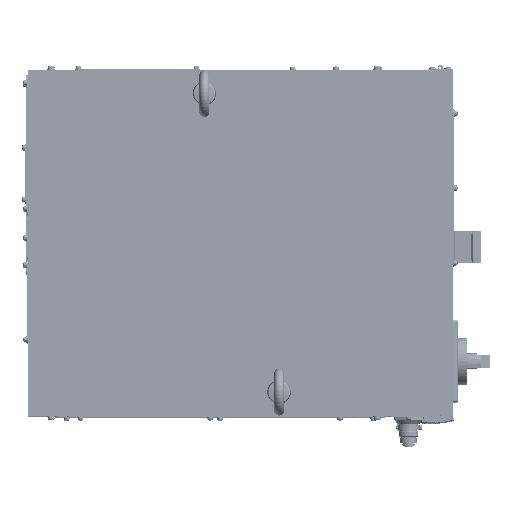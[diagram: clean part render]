
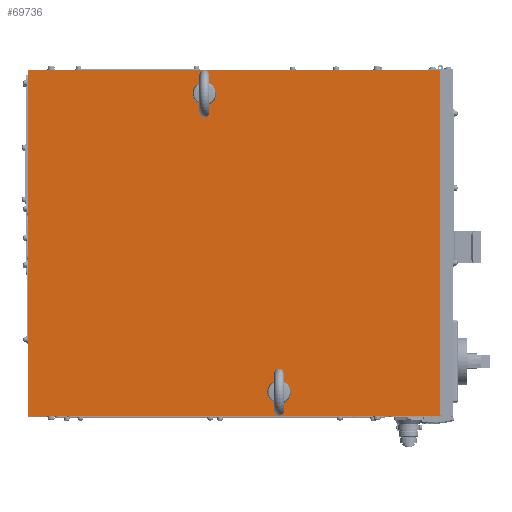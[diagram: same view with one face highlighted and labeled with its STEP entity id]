
A CAD part, top view. The second image highlights one B-rep face of the part: STEP entity #69736.
In plain terms, the highlighted planar face has unit normal (0, 0, 1) as drawn and (0, 1, 0) by its records, which use the part's own axes.
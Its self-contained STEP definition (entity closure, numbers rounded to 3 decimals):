
#1939=FACE_BOUND('',#10777,.T.);
#1940=FACE_BOUND('',#10778,.T.);
#3431=CIRCLE('',#74891,8.5);
#3433=CIRCLE('',#74894,8.5);
#6732=FACE_OUTER_BOUND('',#10776,.T.);
#10776=EDGE_LOOP('',(#50238,#50239,#50240,#50241));
#10777=EDGE_LOOP('',(#50242));
#10778=EDGE_LOOP('',(#50243));
#16060=LINE('',#103214,#23561);
#16088=LINE('',#103277,#23589);
#16092=LINE('',#103286,#23593);
#16093=LINE('',#103288,#23594);
#23561=VECTOR('',#83534,10.);
#23589=VECTOR('',#83596,10.);
#23593=VECTOR('',#83606,10.);
#23594=VECTOR('',#83609,10.);
#30933=VERTEX_POINT('',#103211);
#30934=VERTEX_POINT('',#103213);
#30947=VERTEX_POINT('',#103256);
#30949=VERTEX_POINT('',#103262);
#30952=VERTEX_POINT('',#103275);
#30954=VERTEX_POINT('',#103284);
#38263=EDGE_CURVE('',#30933,#30934,#16060,.T.);
#38285=EDGE_CURVE('',#30947,#30947,#3431,.T.);
#38288=EDGE_CURVE('',#30949,#30949,#3433,.T.);
#38295=EDGE_CURVE('',#30952,#30933,#16088,.T.);
#38299=EDGE_CURVE('',#30952,#30954,#16092,.T.);
#38300=EDGE_CURVE('',#30934,#30954,#16093,.T.);
#50238=ORIENTED_EDGE('',*,*,#38295,.F.);
#50239=ORIENTED_EDGE('',*,*,#38299,.T.);
#50240=ORIENTED_EDGE('',*,*,#38300,.F.);
#50241=ORIENTED_EDGE('',*,*,#38263,.F.);
#50242=ORIENTED_EDGE('',*,*,#38285,.T.);
#50243=ORIENTED_EDGE('',*,*,#38288,.T.);
#66953=PLANE('',#74903);
#69736=ADVANCED_FACE('',(#6732,#1939,#1940),#66953,.T.);
#74891=AXIS2_PLACEMENT_3D('',#103257,#83572,#83573);
#74894=AXIS2_PLACEMENT_3D('',#103263,#83579,#83580);
#74903=AXIS2_PLACEMENT_3D('',#103287,#83607,#83608);
#83534=DIRECTION('',(0.,0.,1.));
#83572=DIRECTION('center_axis',(0.,-1.,0.));
#83573=DIRECTION('ref_axis',(-1.,0.,0.));
#83579=DIRECTION('center_axis',(0.,-1.,0.));
#83580=DIRECTION('ref_axis',(-1.,0.,0.));
#83596=DIRECTION('',(1.,0.,0.));
#83606=DIRECTION('',(0.,0.,1.));
#83607=DIRECTION('center_axis',(0.,1.,0.));
#83608=DIRECTION('ref_axis',(-1.,0.,0.));
#83609=DIRECTION('',(-1.,0.,0.));
#103211=CARTESIAN_POINT('',(525.,0.,0.));
#103213=CARTESIAN_POINT('',(525.,0.,440.));
#103214=CARTESIAN_POINT('',(525.,0.,0.));
#103256=CARTESIAN_POINT('',(233.5,0.,30.));
#103257=CARTESIAN_POINT('Origin',(225.,0.,30.));
#103262=CARTESIAN_POINT('',(328.5,0.,410.));
#103263=CARTESIAN_POINT('Origin',(320.,0.,410.));
#103275=CARTESIAN_POINT('',(0.,0.,0.));
#103277=CARTESIAN_POINT('',(0.,0.,0.));
#103284=CARTESIAN_POINT('',(0.,0.,440.));
#103286=CARTESIAN_POINT('',(0.,0.,0.));
#103287=CARTESIAN_POINT('Origin',(525.,0.,0.));
#103288=CARTESIAN_POINT('',(0.,0.,440.));
